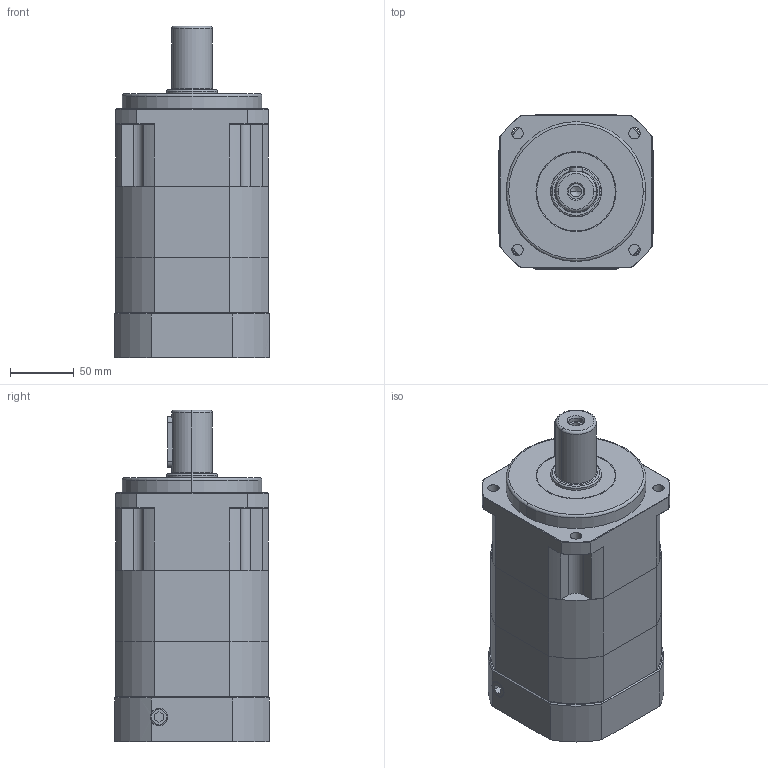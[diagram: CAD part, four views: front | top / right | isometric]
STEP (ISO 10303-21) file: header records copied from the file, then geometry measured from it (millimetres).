
FILE_DESCRIPTION (( 'STEP AP203' ), '1' );
FILE_NAME ('SB120A-2-95M6.STEP', '2011-07-11T08:49:10', ( '1' ), ( '' ), 'SwSTEP 2.0', 'SolidWorks 2011', '' );
FILE_SCHEMA (( 'CONFIG_CONTROL_DESIGN' ));
Length unit declared in the file: millimetre
Products named in the file (1): SB120A-2-95M6
Bounding box: 122 x 122 x 261 mm (x, y, z)
Volume: 2165763.1 mm3; surface area: 286280.2 mm2
Topology: 17 solids, 17 shells, 596 faces, 1420 edges, 882 vertices
Faces by surface type: plane 258, cylinder 199, cone 106, torus 24, bspline 9
Entity records: 18204 total; most frequent: CARTESIAN_POINT 4125, DIRECTION 3041, ORIENTED_EDGE 2788, EDGE_CURVE 1394, AXIS2_PLACEMENT_3D 1150, VERTEX_POINT 882, VECTOR 741, LINE 741
